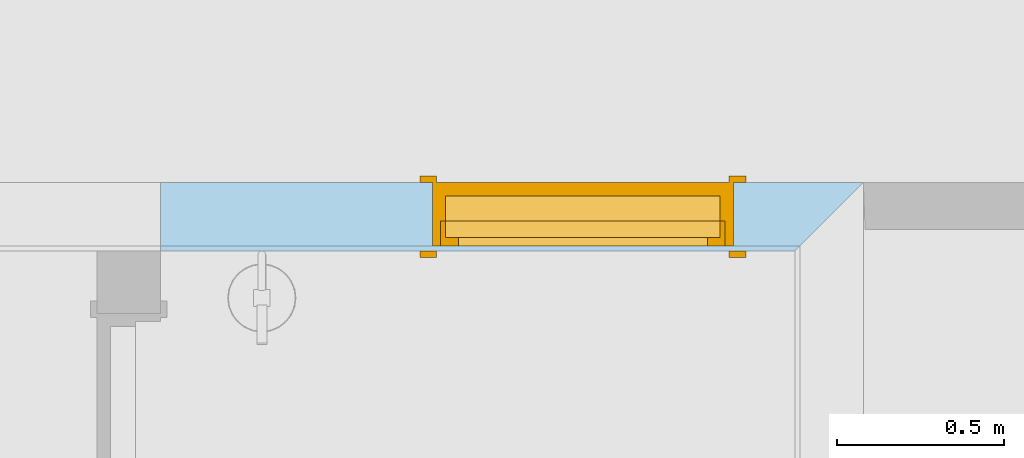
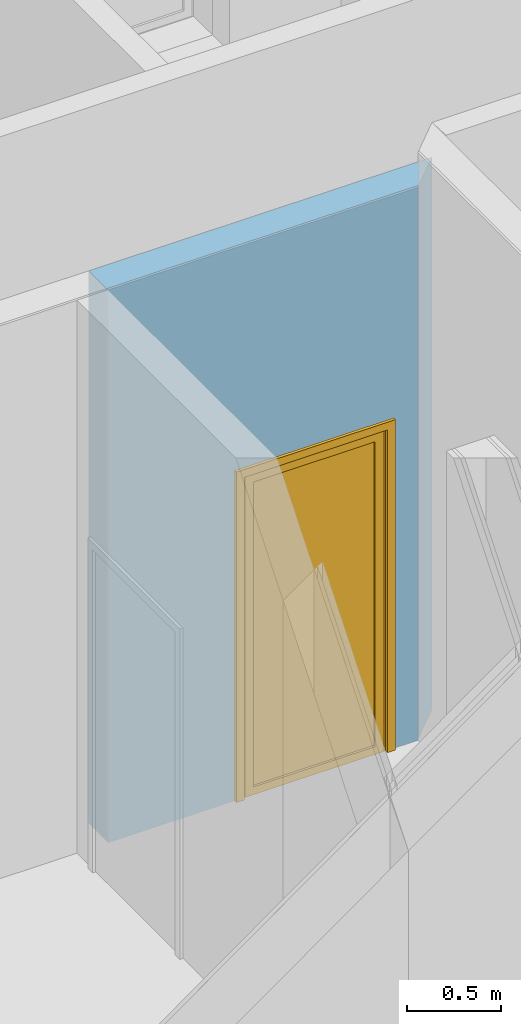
# One storey, part 61 of 100: 2 doors, 2 openings, 1 element without a shape of its own, plus 2 elements that do not belong to this part.
"""IFC2X3 building model written with IfcOpenShell, lengths in millimetres."""

from ifc_helpers import new_model, entity, si_unit, converted_unit, derived_unit, money_unit, direction, frame, origin_with_axes, origin_2d_with_axis, place, context, subcontext, project, spatial, polyline, rectangle, outline, extrude, open_shell, faceted_brep, surface_model, material, type_object, element, fill, aggregate, save


model = new_model("IFC2X3")

# Units and contexts
model_context = context("Model", 3, precision=0.01, world=origin_with_axes(), true_north=direction((0.0, 1.0)))
body_context = subcontext(model_context, "Body", "Model", "MODEL_VIEW")
ifc_project = project(units=[si_unit("LENGTHUNIT", "METRE", prefix="MILLI"), si_unit("AREAUNIT", "SQUARE_METRE"), si_unit("VOLUMEUNIT", "CUBIC_METRE"), converted_unit("PLANEANGLEUNIT", "DEGREE", entity("IfcPlaneAngleMeasure", 0.0174532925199), si_unit("PLANEANGLEUNIT", "RADIAN"), dimensions=[0, 0, 0, 0, 0, 0, 0]), si_unit("SOLIDANGLEUNIT", "STERADIAN"), money_unit("EUR"), converted_unit("TIMEUNIT", "Year", entity("IfcTimeMeasure", 31556926.0), si_unit("TIMEUNIT", "SECOND"), dimensions=[0, 0, 1, 0, 0, 0, 0]), si_unit("MASSUNIT", "GRAM", prefix="KILO"), si_unit("THERMODYNAMICTEMPERATUREUNIT", "DEGREE_CELSIUS"), si_unit("LUMINOUSINTENSITYUNIT", "LUMEN"), si_unit("ENERGYUNIT", "JOULE", prefix="MEGA"), derived_unit("THERMALCONDUCTANCEUNIT", [(si_unit("POWERUNIT", "WATT"), 1), (si_unit("LENGTHUNIT", "METRE"), -1), (si_unit("THERMODYNAMICTEMPERATUREUNIT", "KELVIN"), -1)]), derived_unit("SPECIFICHEATCAPACITYUNIT", [(si_unit("ENERGYUNIT", "JOULE"), 1), (si_unit("MASSUNIT", "GRAM", prefix="KILO"), -1), (si_unit("THERMODYNAMICTEMPERATUREUNIT", "KELVIN"), -1)]), derived_unit("MASSDENSITYUNIT", [(si_unit("MASSUNIT", "GRAM", prefix="KILO"), 1), (si_unit("VOLUMEUNIT", "CUBIC_METRE"), -1)])], contexts=[model_context])

# Site, building, storey
site_placement = place(None, origin_with_axes())
site = spatial("IfcSite", under=ifc_project, at=site_placement, Name="Politse- ja Piirivalveameti ning Päästeameti ühishoone", CompositionType="ELEMENT")
building_placement = place(site_placement, origin_with_axes())
building = spatial("IfcBuilding", under=site, at=building_placement, Name="Politse- ja Piirivalveameti ning Päästeameti ühishoone", CompositionType="ELEMENT")
storey_placement = place(building_placement, frame((0.0, 0.0, 3800.0), z_axis=(0.0, 0.0, 1.0), x_axis=(1.0, 0.0, 0.0)))
storey = spatial("IfcBuildingStorey", under=building, at=storey_placement, Name="Teine korrus", CompositionType="ELEMENT", Elevation=3800.0)

# Door
door_style_1 = type_object("IfcDoorStyle", Name="Door 23", ConstructionType="NOTDEFINED", OperationType="SINGLE_SWING_RIGHT", ParameterTakesPrecedence=False, Sizeable=False)
wall_placement = place(storey_placement, frame((19820.0260184, 15984.8176113, 0.0), z_axis=(0.0, 0.0, 1.0), x_axis=(1.0, 0.0, 0.0)))
opening_1_placement = place(wall_placement, frame((1261.76314383, 0.0, 0.0), z_axis=(0.0, 0.0, 1.0), x_axis=(1.0, 0.0, 0.0)))
door_1_placement = place(opening_1_placement, frame((-450.0, 0.0, 0.0), z_axis=(0.0, 0.0, 1.0), x_axis=(1.0, 0.0, 0.0)))
door_1 = element("IfcDoor", 1, at=door_1_placement, inside=storey, type_object=door_style_1, Name="TU-01-11", ObjectType="DOOR", OverallHeight=2100.0, OverallWidth=900.0, context=body_context, shape_type="Brep", body=[
    faceted_brep([(860.0, 90.0, 0.0), (860.0, 165.0, 0.0), (860.0, 165.0, 12.0), (860.0, 90.0, 12.0), (40.0, 90.0, 0.0), (40.0, 165.0, 0.0), (28.0, 165.0, 0.0), (872.0, 165.0, 0.0), (872.0, 165.0, 12.0), (28.0, 165.0, 12.0), (40.0, 165.0, 12.0), (40.0, 90.0, 12.0)], [[[0, 1, 2, 3]], [[0, 4, 5, 6, 7, 1]], [[1, 7, 8, 2]], [[3, 2, 8, 9, 10, 11]], [[4, 0, 3, 11]], [[5, 4, 11, 10]], [[6, 5, 10, 9]], [[7, 6, 9, 8]]]),
    faceted_brep([(-37.0, 224.0, 0.0), (13.0, 224.0, 0.0), (13.0, 205.0, 0.0), (-37.0, 205.0, 0.0), (-37.0, 224.0, 2137.0), (13.0, 224.0, 2087.0), (13.0, 205.0, 2087.0), (-37.0, 205.0, 2137.0)], [[[0, 1, 2, 3]], [[0, 4, 5, 1]], [[1, 5, 6, 2]], [[3, 2, 6, 7]], [[4, 0, 3, 7]], [[5, 4, 7, 6]]]),
    faceted_brep([(937.0, 224.0, 2137.0), (887.0, 224.0, 2087.0), (887.0, 205.0, 2087.0), (937.0, 205.0, 2137.0), (937.0, 224.0, 0.0), (887.0, 224.0, 0.0), (887.0, 205.0, 0.0), (937.0, 205.0, 0.0)], [[[0, 1, 2, 3]], [[0, 4, 5, 1]], [[1, 5, 6, 2]], [[3, 2, 6, 7]], [[4, 0, 3, 7]], [[5, 4, 7, 6]]]),
    faceted_brep([(-37.0, 224.0, 2137.0), (13.0, 224.0, 2087.0), (13.0, 205.0, 2087.0), (-37.0, 205.0, 2137.0), (937.0, 224.0, 2137.0), (887.0, 224.0, 2087.0), (887.0, 205.0, 2087.0), (937.0, 205.0, 2137.0)], [[[0, 1, 2, 3]], [[0, 4, 5, 1]], [[1, 5, 6, 2]], [[3, 2, 6, 7]], [[4, 0, 3, 7]], [[5, 4, 7, 6]]]),
    faceted_brep([(0.0, 90.0, 0.0), (25.0, 90.0, 0.0), (25.0, 0.0, 0.0), (0.0, 0.0, 0.0), (0.0, 90.0, 2100.0), (25.0, 90.0, 2075.0), (25.0, 0.0, 2075.0), (0.0, 0.0, 2100.0)], [[[0, 1, 2, 3]], [[0, 4, 5, 1]], [[1, 5, 6, 2]], [[3, 2, 6, 7]], [[4, 0, 3, 7]], [[5, 4, 7, 6]]]),
    faceted_brep([(900.0, 90.0, 2100.0), (875.0, 90.0, 2075.0), (875.0, 0.0, 2075.0), (900.0, 0.0, 2100.0), (900.0, 90.0, 0.0), (875.0, 90.0, 0.0), (875.0, 0.0, 0.0), (900.0, 0.0, 0.0)], [[[0, 1, 2, 3]], [[0, 4, 5, 1]], [[1, 5, 6, 2]], [[3, 2, 6, 7]], [[4, 0, 3, 7]], [[5, 4, 7, 6]]]),
    faceted_brep([(0.0, 90.0, 2100.0), (25.0, 90.0, 2075.0), (25.0, 0.0, 2075.0), (0.0, 0.0, 2100.0), (900.0, 90.0, 2100.0), (875.0, 90.0, 2075.0), (875.0, 0.0, 2075.0), (900.0, 0.0, 2100.0)], [[[0, 1, 2, 3]], [[0, 4, 5, 1]], [[1, 5, 6, 2]], [[3, 2, 6, 7]], [[4, 0, 3, 7]], [[5, 4, 7, 6]]]),
    faceted_brep([(-37.0, -19.0, 0.0), (-37.0, 0.0, 0.0), (13.0, 0.0, 0.0), (13.0, -19.0, 0.0), (-37.0, -19.0, 2137.0), (-37.0, 0.0, 2137.0), (13.0, 0.0, 2087.0), (13.0, -19.0, 2087.0)], [[[0, 1, 2, 3]], [[4, 5, 1, 0]], [[1, 5, 6, 2]], [[3, 2, 6, 7]], [[0, 3, 7, 4]], [[7, 6, 5, 4]]]),
    faceted_brep([(937.0, -19.0, 2137.0), (937.0, 0.0, 2137.0), (887.0, 0.0, 2087.0), (887.0, -19.0, 2087.0), (937.0, -19.0, 0.0), (937.0, 0.0, 0.0), (887.0, 0.0, 0.0), (887.0, -19.0, 0.0)], [[[0, 1, 2, 3]], [[4, 5, 1, 0]], [[1, 5, 6, 2]], [[3, 2, 6, 7]], [[0, 3, 7, 4]], [[7, 6, 5, 4]]]),
    faceted_brep([(-37.0, -19.0, 2137.0), (-37.0, 0.0, 2137.0), (13.0, 0.0, 2087.0), (13.0, -19.0, 2087.0), (937.0, -19.0, 2137.0), (937.0, 0.0, 2137.0), (887.0, 0.0, 2087.0), (887.0, -19.0, 2087.0)], [[[0, 1, 2, 3]], [[4, 5, 1, 0]], [[1, 5, 6, 2]], [[3, 2, 6, 7]], [[0, 3, 7, 4]], [[7, 6, 5, 4]]]),
    faceted_brep([(40.0, 165.0, 0.0), (40.0, 165.0, 2060.0), (40.0, 90.0, 2060.0), (40.0, 90.0, 0.0), (28.0, 165.0, 2060.0), (28.0, 165.0, 0.0), (28.0, 205.0, 2060.0), (0.0, 205.0, 2060.0), (0.0, 90.0, 2060.0), (0.0, 90.0, 0.0), (0.0, 205.0, 0.0), (28.0, 205.0, 0.0)], [[[0, 1, 2, 3]], [[4, 1, 0, 5]], [[4, 6, 7, 8, 2, 1]], [[3, 2, 8, 9]], [[5, 0, 3, 9, 10, 11]], [[6, 4, 5, 11]], [[6, 11, 10, 7]], [[10, 9, 8, 7]]]),
    faceted_brep([(872.0, 165.0, 2060.0), (860.0, 165.0, 2060.0), (860.0, 90.0, 2060.0), (900.0, 90.0, 2060.0), (900.0, 205.0, 2060.0), (872.0, 205.0, 2060.0), (872.0, 165.0, 0.0), (860.0, 165.0, 0.0), (860.0, 90.0, 0.0), (900.0, 90.0, 0.0), (900.0, 205.0, 0.0), (872.0, 205.0, 0.0)], [[[0, 1, 2, 3, 4, 5]], [[1, 0, 6, 7]], [[1, 7, 8, 2]], [[3, 2, 8, 9]], [[4, 3, 9, 10]], [[11, 5, 4, 10]], [[0, 5, 11, 6]], [[6, 11, 10, 9, 8, 7]]]),
    faceted_brep([(28.0, 205.0, 2072.0), (28.0, 205.0, 2060.0), (0.0, 205.0, 2060.0), (0.0, 205.0, 2100.0), (900.0, 205.0, 2100.0), (900.0, 205.0, 2060.0), (872.0, 205.0, 2060.0), (872.0, 205.0, 2072.0), (28.0, 165.0, 2072.0), (28.0, 165.0, 2060.0), (40.0, 165.0, 2060.0), (40.0, 90.0, 2060.0), (0.0, 90.0, 2060.0), (0.0, 90.0, 2100.0), (900.0, 90.0, 2100.0), (900.0, 90.0, 2060.0), (872.0, 165.0, 2060.0), (860.0, 90.0, 2060.0), (860.0, 165.0, 2060.0), (872.0, 165.0, 2072.0)], [[[0, 1, 2, 3, 4, 5, 6, 7]], [[1, 0, 8, 9]], [[9, 10, 11, 12, 2, 1]], [[2, 12, 13, 3]], [[3, 13, 14, 4]], [[4, 14, 15, 5]], [[16, 6, 5, 15, 17, 18]], [[7, 6, 16, 19]], [[0, 7, 19, 8]], [[16, 18, 10, 9, 8, 19]], [[10, 18, 17, 11]], [[17, 15, 14, 13, 12, 11]]]),
    faceted_brep([(872.0, 205.0, 0.0), (872.0, 165.0, 0.0), (28.0, 165.0, 0.0), (28.0, 205.0, 0.0), (872.0, 205.0, 2072.0), (872.0, 165.0, 2072.0), (28.0, 165.0, 2072.0), (28.0, 205.0, 2072.0)], [[[0, 1, 2, 3]], [[4, 5, 1, 0]], [[1, 5, 6, 2]], [[3, 2, 6, 7]], [[0, 3, 7, 4]], [[7, 6, 5, 4]]]),
])

door_style_2 = type_object("IfcDoorStyle", Name="Door 23", ConstructionType="NOTDEFINED", OperationType="SINGLE_SWING_LEFT", ParameterTakesPrecedence=False, Sizeable=False)
opening_2_placement = place(wall_placement, frame((1261.76314383, 0.0, 0.0), z_axis=(0.0, 0.0, 1.0), x_axis=(1.0, 0.0, 0.0)))
door_2_placement = place(opening_2_placement, frame((450.0, 0.0, 0.0), z_axis=(0.0, 0.0, 1.0), x_axis=(-1.0, 0.0, 0.0)))
door_2 = element("IfcDoor", 2, at=door_2_placement, inside=storey, type_object=door_style_2, Name="SU-01-4", ObjectType="DOOR", OverallHeight=2100.0, OverallWidth=900.0, context=body_context, shape_type="SurfaceModel", body=[
    faceted_brep([(28.0, -40.0, 0.0), (40.0, -40.0, 0.0), (40.0, -40.0, 12.0), (28.0, -40.0, 12.0), (872.0, -40.0, 0.0), (860.0, -40.0, 0.0), (860.0, -115.0, 0.0), (40.0, -115.0, 0.0), (40.0, -115.0, 12.0), (860.0, -115.0, 12.0), (860.0, -40.0, 12.0), (872.0, -40.0, 12.0)], [[[0, 1, 2, 3]], [[0, 4, 5, 6, 7, 1]], [[1, 7, 8, 2]], [[3, 2, 8, 9, 10, 11]], [[4, 0, 3, 11]], [[5, 4, 11, 10]], [[6, 5, 10, 9]], [[7, 6, 9, 8]]]),
    faceted_brep([(900.0, -115.0, 0.0), (900.0, -205.0, 0.0), (875.0, -205.0, 0.0), (875.0, -115.0, 0.0), (900.0, -115.0, 2100.0), (900.0, -205.0, 2100.0), (875.0, -205.0, 2075.0), (875.0, -115.0, 2075.0)], [[[0, 1, 2, 3]], [[4, 5, 1, 0]], [[1, 5, 6, 2]], [[3, 2, 6, 7]], [[0, 3, 7, 4]], [[7, 6, 5, 4]]]),
    faceted_brep([(0.0, -115.0, 2100.0), (0.0, -205.0, 2100.0), (25.0, -205.0, 2075.0), (25.0, -115.0, 2075.0), (0.0, -115.0, 0.0), (0.0, -205.0, 0.0), (25.0, -205.0, 0.0), (25.0, -115.0, 0.0)], [[[0, 1, 2, 3]], [[4, 5, 1, 0]], [[1, 5, 6, 2]], [[3, 2, 6, 7]], [[0, 3, 7, 4]], [[7, 6, 5, 4]]]),
    faceted_brep([(875.0, -115.0, 2075.0), (875.0, -205.0, 2075.0), (25.0, -205.0, 2075.0), (25.0, -115.0, 2075.0), (900.0, -115.0, 2100.0), (900.0, -205.0, 2100.0), (0.0, -205.0, 2100.0), (0.0, -115.0, 2100.0)], [[[0, 1, 2, 3]], [[4, 5, 1, 0]], [[1, 5, 6, 2]], [[3, 2, 6, 7]], [[0, 3, 7, 4]], [[7, 6, 5, 4]]]),
    faceted_brep([(937.0, -224.0, 0.0), (887.0, -224.0, 0.0), (887.0, -205.0, 0.0), (937.0, -205.0, 0.0), (937.0, -224.0, 2137.0), (887.0, -224.0, 2087.0), (887.0, -205.0, 2087.0), (937.0, -205.0, 2137.0)], [[[0, 1, 2, 3]], [[0, 4, 5, 1]], [[1, 5, 6, 2]], [[3, 2, 6, 7]], [[4, 0, 3, 7]], [[5, 4, 7, 6]]]),
    faceted_brep([(-37.0, -224.0, 2137.0), (13.0, -224.0, 2087.0), (13.0, -205.0, 2087.0), (-37.0, -205.0, 2137.0), (-37.0, -224.0, 0.0), (13.0, -224.0, 0.0), (13.0, -205.0, 0.0), (-37.0, -205.0, 0.0)], [[[0, 1, 2, 3]], [[0, 4, 5, 1]], [[1, 5, 6, 2]], [[3, 2, 6, 7]], [[4, 0, 3, 7]], [[5, 4, 7, 6]]]),
    faceted_brep([(937.0, -224.0, 2137.0), (887.0, -224.0, 2087.0), (887.0, -205.0, 2087.0), (937.0, -205.0, 2137.0), (-37.0, -224.0, 2137.0), (13.0, -224.0, 2087.0), (13.0, -205.0, 2087.0), (-37.0, -205.0, 2137.0)], [[[0, 1, 2, 3]], [[0, 4, 5, 1]], [[1, 5, 6, 2]], [[3, 2, 6, 7]], [[4, 0, 3, 7]], [[5, 4, 7, 6]]]),
    faceted_brep([(937.0, 19.0, 0.0), (937.0, 0.0, 0.0), (887.0, 0.0, 0.0), (887.0, 19.0, 0.0), (937.0, 19.0, 2137.0), (937.0, 0.0, 2137.0), (887.0, 0.0, 2087.0), (887.0, 19.0, 2087.0)], [[[0, 1, 2, 3]], [[4, 5, 1, 0]], [[1, 5, 6, 2]], [[3, 2, 6, 7]], [[0, 3, 7, 4]], [[7, 6, 5, 4]]]),
    faceted_brep([(-37.0, 19.0, 2137.0), (-37.0, 0.0, 2137.0), (13.0, 0.0, 2087.0), (13.0, 19.0, 2087.0), (-37.0, 19.0, 0.0), (-37.0, 0.0, 0.0), (13.0, 0.0, 0.0), (13.0, 19.0, 0.0)], [[[0, 1, 2, 3]], [[4, 5, 1, 0]], [[1, 5, 6, 2]], [[3, 2, 6, 7]], [[0, 3, 7, 4]], [[7, 6, 5, 4]]]),
    faceted_brep([(937.0, 19.0, 2137.0), (937.0, 0.0, 2137.0), (887.0, 0.0, 2087.0), (887.0, 19.0, 2087.0), (-37.0, 19.0, 2137.0), (-37.0, 0.0, 2137.0), (13.0, 0.0, 2087.0), (13.0, 19.0, 2087.0)], [[[0, 1, 2, 3]], [[4, 5, 1, 0]], [[1, 5, 6, 2]], [[3, 2, 6, 7]], [[0, 3, 7, 4]], [[7, 6, 5, 4]]]),
    faceted_brep([(860.0, -40.0, 0.0), (860.0, -115.0, 0.0), (860.0, -115.0, 2060.0), (860.0, -40.0, 2060.0), (872.0, -40.0, 0.0), (872.0, 0.0, 0.0), (900.0, 0.0, 0.0), (900.0, -115.0, 0.0), (900.0, -115.0, 2060.0), (872.0, -40.0, 2060.0), (900.0, 0.0, 2060.0), (872.0, 0.0, 2060.0)], [[[0, 1, 2, 3]], [[4, 5, 6, 7, 1, 0]], [[1, 7, 8, 2]], [[9, 3, 2, 8, 10, 11]], [[9, 4, 0, 3]], [[11, 5, 4, 9]], [[11, 10, 6, 5]], [[6, 10, 8, 7]]]),
    faceted_brep([(28.0, -40.0, 2060.0), (28.0, 0.0, 2060.0), (0.0, 0.0, 2060.0), (0.0, -115.0, 2060.0), (40.0, -115.0, 2060.0), (40.0, -40.0, 2060.0), (28.0, -40.0, 0.0), (28.0, 0.0, 0.0), (0.0, 0.0, 0.0), (0.0, -115.0, 0.0), (40.0, -115.0, 0.0), (40.0, -40.0, 0.0)], [[[0, 1, 2, 3, 4, 5]], [[0, 6, 7, 1]], [[7, 8, 2, 1]], [[2, 8, 9, 3]], [[3, 9, 10, 4]], [[5, 4, 10, 11]], [[5, 11, 6, 0]], [[6, 11, 10, 9, 8, 7]]]),
    faceted_brep([(872.0, 0.0, 2072.0), (28.0, 0.0, 2072.0), (28.0, 0.0, 2060.0), (0.0, 0.0, 2060.0), (0.0, 0.0, 2100.0), (900.0, 0.0, 2100.0), (900.0, 0.0, 2060.0), (872.0, 0.0, 2060.0), (872.0, -40.0, 2072.0), (28.0, -40.0, 2072.0), (28.0, -40.0, 2060.0), (40.0, -40.0, 2060.0), (40.0, -115.0, 2060.0), (0.0, -115.0, 2060.0), (0.0, -115.0, 2100.0), (900.0, -115.0, 2100.0), (900.0, -115.0, 2060.0), (872.0, -40.0, 2060.0), (860.0, -115.0, 2060.0), (860.0, -40.0, 2060.0)], [[[0, 1, 2, 3, 4, 5, 6, 7]], [[0, 8, 9, 1]], [[1, 9, 10, 2]], [[10, 11, 12, 13, 3, 2]], [[4, 3, 13, 14]], [[5, 4, 14, 15]], [[6, 5, 15, 16]], [[17, 7, 6, 16, 18, 19]], [[7, 17, 8, 0]], [[10, 9, 8, 17, 19, 11]], [[19, 18, 12, 11]], [[12, 18, 16, 15, 14, 13]]]),
    faceted_brep([(28.0, 0.0, 50.0), (78.0, 0.0, 50.0), (78.0, -40.0, 50.0), (28.0, -40.0, 50.0), (28.0, 0.0, 2022.0), (78.0, 0.0, 2022.0), (78.0, -40.0, 2022.0), (28.0, -40.0, 2022.0)], [[[0, 1, 2, 3]], [[0, 4, 5, 1]], [[1, 5, 6, 2]], [[3, 2, 6, 7]], [[4, 0, 3, 7]], [[5, 4, 7, 6]]]),
    faceted_brep([(872.0, 0.0, 50.0), (872.0, 0.0, 2022.0), (872.0, -40.0, 2022.0), (872.0, -40.0, 50.0), (822.0, 0.0, 50.0), (822.0, 0.0, 2022.0), (822.0, -40.0, 2022.0), (822.0, -40.0, 50.0)], [[[0, 1, 2, 3]], [[0, 4, 5, 1]], [[1, 5, 6, 2]], [[3, 2, 6, 7]], [[4, 0, 3, 7]], [[5, 4, 7, 6]]]),
    faceted_brep([(28.0, 0.0, 0.0), (872.0, 0.0, 0.0), (872.0, -40.0, 0.0), (28.0, -40.0, 0.0), (28.0, 0.0, 50.0), (78.0, 0.0, 50.0), (822.0, 0.0, 50.0), (872.0, 0.0, 50.0), (872.0, -40.0, 50.0), (822.0, -40.0, 50.0), (78.0, -40.0, 50.0), (28.0, -40.0, 50.0)], [[[0, 1, 2, 3]], [[0, 4, 5, 6, 7, 1]], [[1, 7, 8, 2]], [[3, 2, 8, 9, 10, 11]], [[4, 0, 3, 11]], [[5, 4, 11, 10]], [[6, 5, 10, 9]], [[7, 6, 9, 8]]]),
    faceted_brep([(28.0, 0.0, 2072.0), (28.0, 0.0, 2022.0), (28.0, -40.0, 2022.0), (28.0, -40.0, 2072.0), (872.0, 0.0, 2072.0), (872.0, 0.0, 2022.0), (822.0, 0.0, 2022.0), (78.0, 0.0, 2022.0), (78.0, -40.0, 2022.0), (822.0, -40.0, 2022.0), (872.0, -40.0, 2022.0), (872.0, -40.0, 2072.0)], [[[0, 1, 2, 3]], [[0, 4, 5, 6, 7, 1]], [[1, 7, 8, 2]], [[3, 2, 8, 9, 10, 11]], [[4, 0, 3, 11]], [[5, 4, 11, 10]], [[6, 5, 10, 9]], [[7, 6, 9, 8]]]),
    surface_model("IfcShellBasedSurfaceModel", [(78.0, -14.0, 50.0), (78.0, -14.0, 2022.0), (822.0, -14.0, 2022.0), (822.0, -14.0, 50.0)], [open_shell([[[0, 1, 2, 3]]])]),
    surface_model("IfcShellBasedSurfaceModel", [(78.0, -26.0, 50.0), (822.0, -26.0, 50.0), (822.0, -26.0, 2022.0), (78.0, -26.0, 2022.0)], [open_shell([[[0, 1, 2, 3]]])]),
])

# Wall, opening
wall_type = type_object("IfcWallType", Name="SS-05_Sisesein - relvaruum 205", PredefinedType="NOTDEFINED")
wall = element("IfcWall", 3, at=wall_placement, inside=storey, type_object=wall_type, Name="SS-05")
opening_1 = element("IfcOpeningElement", 4, at=opening_1_placement, cuts=wall, Name="TU-01-11", context=body_context, shape_type="SweptSolid", body=[
    extrude(rectangle(XDim=900.0, YDim=2100.0, at=origin_2d_with_axis()), frame((0.0, 90.0, 1050.0), z_axis=(0.0, -1.0, 0.0), x_axis=(1.0, 0.0, 0.0)), (0.0, 0.0, -1.0), 320.0),
    extrude(rectangle(XDim=900.0, YDim=2100.0, at=origin_2d_with_axis()), frame((0.0, 90.0, 1050.0), z_axis=(0.0, 1.0, 0.0), x_axis=(1.0, 0.0, 0.0)), (0.0, 0.0, -1.0), 295.0),
    extrude(rectangle(XDim=974.0, YDim=2137.0, at=origin_2d_with_axis()), frame((0.0, 205.0, 1068.5), z_axis=(0.0, -1.0, 0.0), x_axis=(1.0, 0.0, 0.0)), (0.0, 0.0, -1.0), 295.0),
    extrude(rectangle(XDim=974.0, YDim=2137.0, at=origin_2d_with_axis()), frame((0.0, 0.0, 1068.5), z_axis=(0.0, 1.0, 0.0), x_axis=(1.0, 0.0, 0.0)), (0.0, 0.0, -1.0), 295.0),
])

fill(opening_1, door_1)

# Opening
opening_2 = element("IfcOpeningElement", 5, at=opening_2_placement, cuts=wall, Name="SU-01-4", context=body_context, shape_type="SweptSolid", body=[
    extrude(rectangle(XDim=900.0, YDim=2100.0, at=origin_2d_with_axis()), frame((0.0, 205.0, 1050.0), z_axis=(0.0, 1.0, 0.0), x_axis=(1.0, 0.0, 0.0)), (0.0, 0.0, -1.0), 615.0),
    extrude(rectangle(XDim=974.0, YDim=2137.0, at=origin_2d_with_axis()), frame((0.0, 205.0, 1068.5), z_axis=(0.0, 1.0, 0.0), x_axis=(1.0, 0.0, 0.0)), (0.0, 0.0, 1.0), 205.0),
    extrude(rectangle(XDim=974.0, YDim=2137.0, at=origin_2d_with_axis()), frame((0.0, 0.0, 1068.5), z_axis=(0.0, -1.0, 0.0), x_axis=(1.0, 0.0, 0.0)), (0.0, 0.0, 1.0), 205.0),
])

fill(opening_2, door_2)

# Building element part
ifc_material_1 = material(Name="ET-05_Teras")
building_element_part_1_placement = place(wall_placement, origin_with_axes())
building_element_part_1 = element("IfcBuildingElementPart", 6, at=building_element_part_1_placement, material=ifc_material_1, Name="ET-05_Teras", context=body_context, shape_type="SweptSolid", body=[
    extrude(outline(polyline([(0.0, 0.0), (1895.0, 0.0), (1910.0, 15.0), (0.0, 15.0), (0.0, 0.0)])), origin_with_axes(), (0.0, 0.0, 1.0), 3575.0),
])

ifc_material_2 = material(Name="KON-05_Betoon Plokk - Konstuktsioon")
building_element_part_2_placement = place(wall_placement, origin_with_axes())
building_element_part_2 = element("IfcBuildingElementPart", 7, at=building_element_part_2_placement, material=ifc_material_2, Name="KON-05_Betoon Plokk - Konstuktsioon", context=body_context, shape_type="SweptSolid", body=[
    extrude(outline(polyline([(0.0, 15.0), (1910.0, 15.0), (2100.0, 205.0), (0.0, 205.0), (0.0, 15.0)])), origin_with_axes(), (0.0, 0.0, 1.0), 3575.0),
])

aggregate(wall, [building_element_part_1, building_element_part_2])

save(model, "model.ifc")
